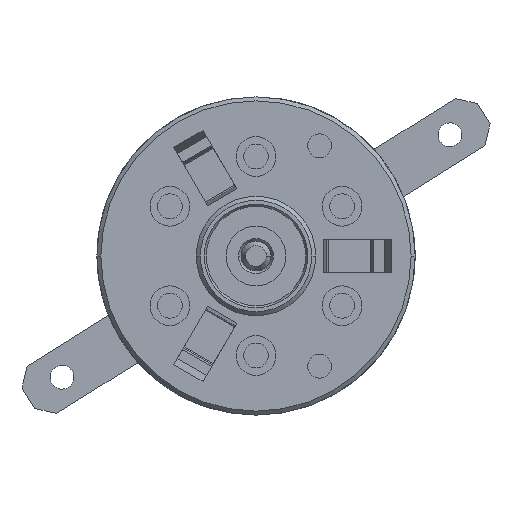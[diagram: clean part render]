
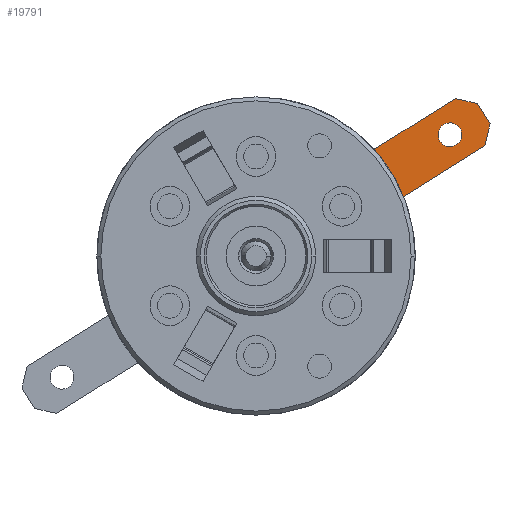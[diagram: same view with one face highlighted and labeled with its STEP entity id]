
A CAD part, left-side view. The second image highlights one B-rep face of the part: STEP entity #19791.
In plain terms, the highlighted planar face has unit normal (-1, 0, 0).
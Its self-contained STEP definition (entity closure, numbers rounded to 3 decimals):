
#8926=DIRECTION('',(0.,-0.53,-0.848));
#8927=VECTOR('',#8926,2.8);
#8928=CARTESIAN_POINT('',(22.02,-4.346,4.367));
#8929=LINE('',#8928,#8927);
#8954=DIRECTION('',(0.,0.848,-0.53));
#8955=VECTOR('',#8954,6.7);
#8956=CARTESIAN_POINT('',(22.02,-10.028,7.917));
#8957=LINE('',#8956,#8955);
#8961=DIRECTION('',(0.,0.974,0.225));
#8962=VECTOR('',#8961,1.131);
#8963=CARTESIAN_POINT('',(22.02,-11.131,7.663));
#8964=LINE('',#8963,#8962);
#8968=DIRECTION('',(0.,0.53,0.848));
#8969=VECTOR('',#8968,1.2);
#8970=CARTESIAN_POINT('',(22.02,-11.767,6.645));
#8971=LINE('',#8970,#8969);
#8975=DIRECTION('',(0.,-0.225,0.974));
#8976=VECTOR('',#8975,1.131);
#8977=CARTESIAN_POINT('',(22.02,-11.512,5.543));
#8978=LINE('',#8977,#8976);
#8982=DIRECTION('',(0.,-0.848,0.53));
#8983=VECTOR('',#8982,6.7);
#8984=CARTESIAN_POINT('',(22.02,-5.83,1.992));
#8985=LINE('',#8984,#8983);
#8989=CARTESIAN_POINT('',(22.02,-9.753,6.094));
#8990=DIRECTION('',(1.,0.,0.));
#8991=DIRECTION('',(0.,-0.53,-0.848));
#8992=AXIS2_PLACEMENT_3D('',#8989,#8990,#8991);
#8997=CARTESIAN_POINT('',(22.02,-9.753,6.094));
#8998=DIRECTION('',(1.,0.,0.));
#8999=DIRECTION('',(0.,0.53,0.848));
#9000=AXIS2_PLACEMENT_3D('',#8997,#8998,#8999);
#12490=CARTESIAN_POINT('',(22.02,-10.071,5.585));
#12491=CARTESIAN_POINT('',(22.02,-9.435,6.603));
#12492=VERTEX_POINT('',#12490);
#12493=VERTEX_POINT('',#12491);
#12536=CARTESIAN_POINT('',(22.02,-11.512,5.543));
#12537=VERTEX_POINT('',#12536);
#12538=CARTESIAN_POINT('',(22.02,-11.767,6.645));
#12539=VERTEX_POINT('',#12538);
#12544=CARTESIAN_POINT('',(22.02,-11.131,7.663));
#12545=VERTEX_POINT('',#12544);
#12546=CARTESIAN_POINT('',(22.02,-10.028,7.917));
#12547=VERTEX_POINT('',#12546);
#12562=CARTESIAN_POINT('',(22.02,-4.346,4.367));
#12563=CARTESIAN_POINT('',(22.02,-5.83,1.992));
#12564=VERTEX_POINT('',#12562);
#12565=VERTEX_POINT('',#12563);
#19767=CARTESIAN_POINT('',(22.02,-3.477,2.173));
#19768=DIRECTION('',(-1.,0.,0.));
#19769=DIRECTION('',(0.,-0.53,-0.848));
#19770=AXIS2_PLACEMENT_3D('',#19767,#19768,#19769);
#19771=PLANE('',#19770);
#19772=ORIENTED_EDGE('',*,*,#19752,.F.);
#19774=ORIENTED_EDGE('',*,*,#19773,.F.);
#19776=ORIENTED_EDGE('',*,*,#19775,.F.);
#19778=ORIENTED_EDGE('',*,*,#19777,.F.);
#19780=ORIENTED_EDGE('',*,*,#19779,.F.);
#19782=ORIENTED_EDGE('',*,*,#19781,.F.);
#19783=EDGE_LOOP('',(#19772,#19774,#19776,#19778,#19780,#19782));
#19784=FACE_OUTER_BOUND('',#19783,.F.);
#19786=ORIENTED_EDGE('',*,*,#19785,.F.);
#19788=ORIENTED_EDGE('',*,*,#19787,.F.);
#19789=EDGE_LOOP('',(#19786,#19788));
#19790=FACE_BOUND('',#19789,.F.);
#19791=ADVANCED_FACE('',(#19784,#19790),#19771,.T.);
#8993=CIRCLE('',#8992,0.6);
#9001=CIRCLE('',#9000,0.6);
#19752=EDGE_CURVE('',#12564,#12565,#8929,.T.);
#19773=EDGE_CURVE('',#12547,#12564,#8957,.T.);
#19775=EDGE_CURVE('',#12545,#12547,#8964,.T.);
#19777=EDGE_CURVE('',#12539,#12545,#8971,.T.);
#19779=EDGE_CURVE('',#12537,#12539,#8978,.T.);
#19781=EDGE_CURVE('',#12565,#12537,#8985,.T.);
#19785=EDGE_CURVE('',#12492,#12493,#8993,.T.);
#19787=EDGE_CURVE('',#12493,#12492,#9001,.T.);
